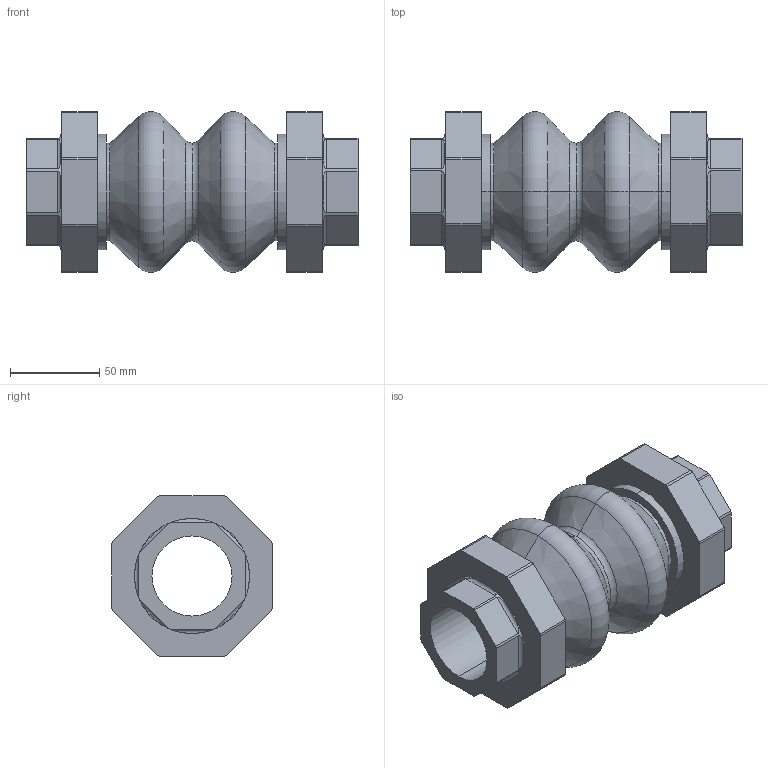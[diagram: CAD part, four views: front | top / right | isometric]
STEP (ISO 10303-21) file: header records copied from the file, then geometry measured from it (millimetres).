
FILE_DESCRIPTION (( 'STEP AP203' ), '1' );
FILE_NAME ('T8_DN040.STEP', '2012-10-31T13:29:38', ( 'luca.saino' ), ( 'Hewlett-Packard Company' ), 'SwSTEP 2.0', 'SolidWorks 2012', '' );
FILE_SCHEMA (( 'CONFIG_CONTROL_DESIGN' ));
Length unit declared in the file: millimetre
Products named in the file (1): T8_DN040
Bounding box: 186 x 90 x 90 mm (x, y, z)
Volume: 408908.3 mm3; surface area: 105169.3 mm2
Topology: 1 solids, 1 shells, 140 faces, 356 edges, 224 vertices
Faces by surface type: plane 56, cylinder 48, torus 20, cone 16
Entity records: 4865 total; most frequent: CARTESIAN_POINT 1341, DIRECTION 754, ORIENTED_EDGE 712, EDGE_CURVE 356, AXIS2_PLACEMENT_3D 289, VERTEX_POINT 224, VECTOR 176, LINE 176
